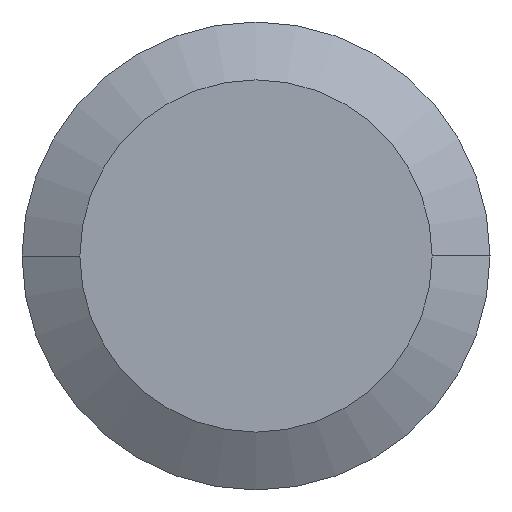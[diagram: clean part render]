
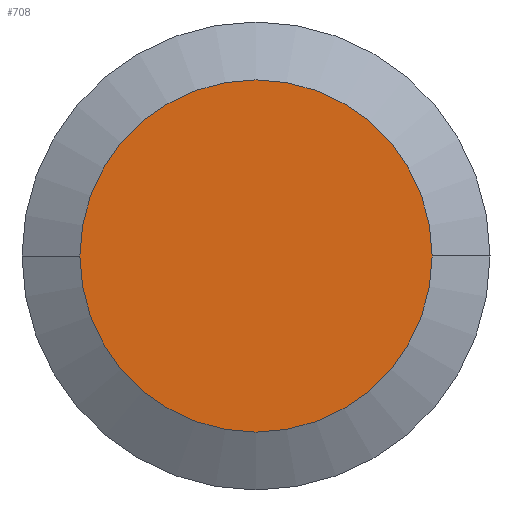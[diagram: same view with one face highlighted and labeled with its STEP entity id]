
A CAD part, front view. The second image highlights one B-rep face of the part: STEP entity #708.
In plain terms, the highlighted planar face has unit normal (0, -1, 0).
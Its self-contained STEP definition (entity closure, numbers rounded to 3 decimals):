
#157 = CARTESIAN_POINT ( 'NONE',  ( 5774.111, -3044.321, 0. ) ) ;
#245 = CARTESIAN_POINT ( 'NONE',  ( 5774.111, -3044.321, 0. ) ) ;
#343 = DIRECTION ( 'NONE',  ( 0., -1., 0. ) ) ;
#352 = DIRECTION ( 'NONE',  ( -1., 0., 0. ) ) ;
#494 = AXIS2_PLACEMENT_3D ( 'NONE', #157, #827, #537 ) ;
#521 = PLANE ( 'NONE',  #640 ) ;
#537 = DIRECTION ( 'NONE',  ( -1., 0., 0. ) ) ;
#640 = AXIS2_PLACEMENT_3D ( 'NONE', #245, #343, #927 ) ;
#648 = ORIENTED_EDGE ( 'NONE', *, *, #930, .F. ) ;
#708 = ADVANCED_FACE ( 'NONE', ( #879 ), #521, .T. ) ;
#747 = EDGE_LOOP ( 'NONE', ( #648, #1094 ) ) ;
#772 = AXIS2_PLACEMENT_3D ( 'NONE', #845, #946, #352 ) ;
#774 = VERTEX_POINT ( 'NONE', #922 ) ;
#803 = EDGE_CURVE ( 'NONE', #774, #1165, #1138, .T. ) ;
#827 = DIRECTION ( 'NONE',  ( 0., 1., 0. ) ) ;
#845 = CARTESIAN_POINT ( 'NONE',  ( 5774.111, -3044.321, 0. ) ) ;
#879 = FACE_OUTER_BOUND ( 'NONE', #747, .T. ) ;
#922 = CARTESIAN_POINT ( 'NONE',  ( 5776.745, -3044.321, 0. ) ) ;
#927 = DIRECTION ( 'NONE',  ( 1., 0., 0. ) ) ;
#930 = EDGE_CURVE ( 'NONE', #1165, #774, #1179, .T. ) ;
#946 = DIRECTION ( 'NONE',  ( 0., 1., 0. ) ) ;
#1094 = ORIENTED_EDGE ( 'NONE', *, *, #803, .F. ) ;
#1138 = CIRCLE ( 'NONE', #772, 2.634 ) ;
#1165 = VERTEX_POINT ( 'NONE', #1234 ) ;
#1179 = CIRCLE ( 'NONE', #494, 2.634 ) ;
#1234 = CARTESIAN_POINT ( 'NONE',  ( 5771.477, -3044.321, 0. ) ) ;
